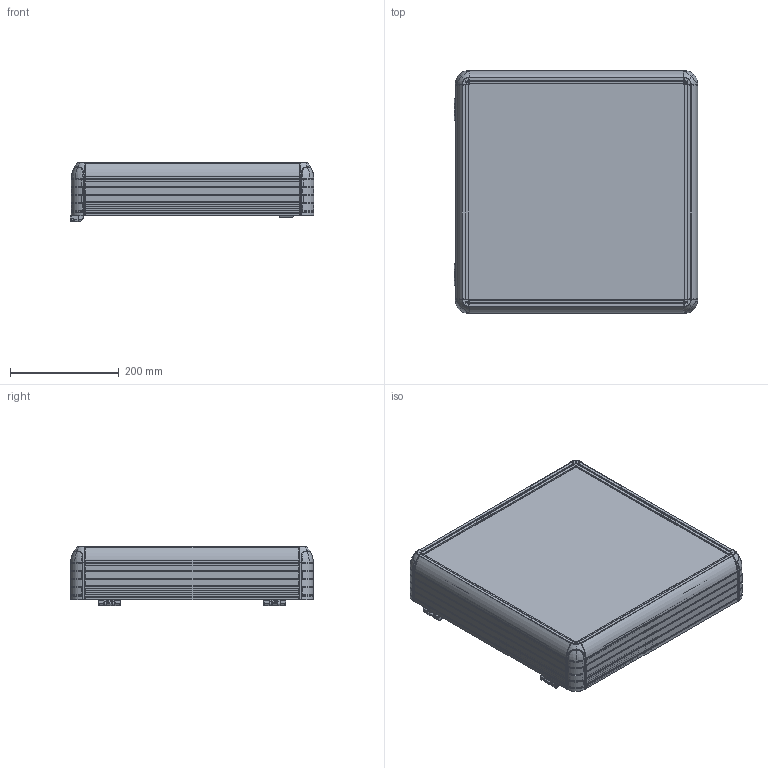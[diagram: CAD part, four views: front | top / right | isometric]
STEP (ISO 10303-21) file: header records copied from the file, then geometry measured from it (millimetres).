
FILE_DESCRIPTION (( 'STEP AP214' ), '1' );
FILE_NAME ('9000-0008.STEP', '2022-08-31T14:26:39', ( '' ), ( '' ), 'SwSTEP 2.0', 'SolidWorks 2022', '' );
FILE_SCHEMA (( 'AUTOMOTIVE_DESIGN' ));
Length unit declared in the file: millimetre
Products named in the file (5): HPECO-090-001-295_395; 9000-0008; 400X400; ARKA_KAPAK_400X400; ECO9000-0000
Assembly tree (10 placements, depth 2):
  9000-0008
    400X400
    ARKA_KAPAK_400X400
    ECO9000-0000  x4
    HPECO-090-001-295_395  x4
Bounding box: 449.03 x 447 x 109.16 mm (x, y, z)
Volume: 2079555.1 mm3; surface area: 1597130.1 mm2
Topology: 18 solids, 68 shells, 6189 faces, 16640 edges, 10330 vertices
Faces by surface type: plane 2561, cylinder 1752, bspline 996, cone 566, torus 268, sphere 46
Entity records: 148097 total; most frequent: CARTESIAN_POINT 35197, ORIENTED_EDGE 17812, DIRECTION 15800, EDGE_CURVE 8906, AXIS2_PLACEMENT_3D 5825, VERTEX_POINT 5530, LINE 4150, VECTOR 4150
